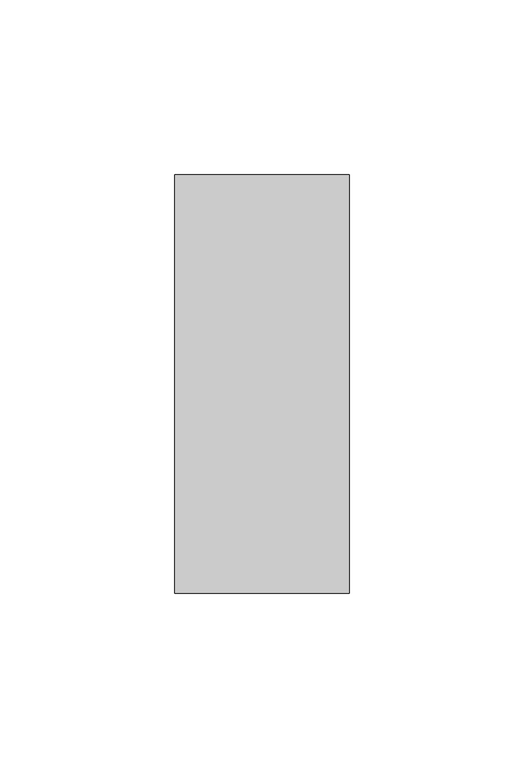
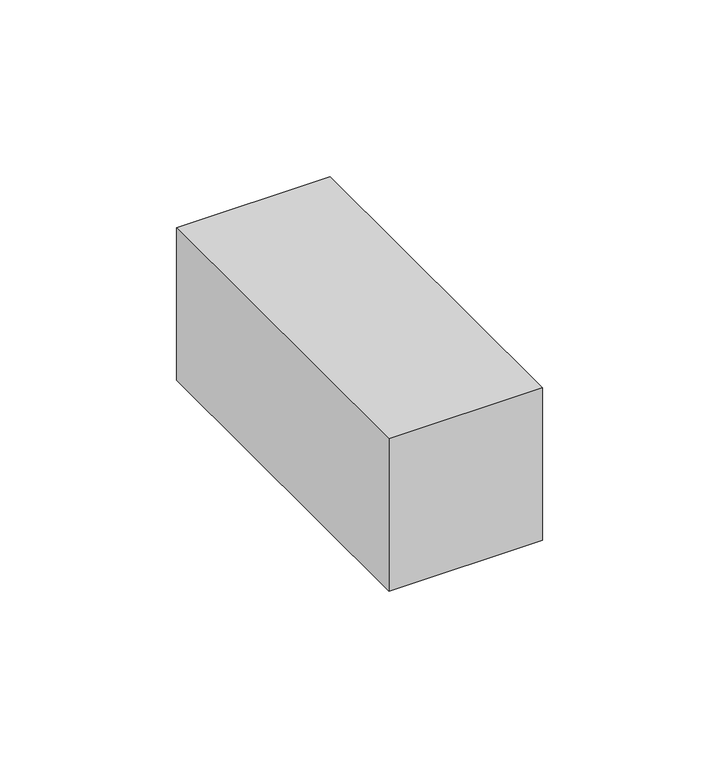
"""IFC4 building model written with IfcOpenShell, lengths in millimetres: member geometry, Прямоугольный импост : 50х120 мм."""

from ifc_helpers import new_model, si_unit, frame, origin, place, context, project, spatial, polyline, outline, extrude, source, transform, mapped, element, save


def member_5ccecf80(model_context):
    return source(origin(), model_context, "Body", "SweptSolid", [
        extrude(outline(polyline([(0.0, 60.0), (0.0, -60.0), (-50.0, -60.0), (-50.0, 60.0), (0.0, 60.0)])), frame((0.0, 0.0, -52.5731112), z_axis=(0.0, 0.0, 1.0), x_axis=(1.0, 0.0, 0.0)), (0.0, 0.0, 1.0), 52.5731112),
    ])


if __name__ == "__main__":
    model = new_model("IFC4")
    model_context = context("Model", 3, world=origin())
    ifc_project = project(units=[si_unit("LENGTHUNIT", "METRE", prefix="MILLI")], contexts=[model_context])
    site = spatial("IfcSite", under=ifc_project)
    building = spatial("IfcBuilding", under=site)
    placement = place(None, origin())
    member_shape = member_5ccecf80(model_context)
    element("IfcMember", 1, ObjectType="Прямоугольный импост : 50х120 мм", at=placement, inside=building, context=model_context, shape_type="MappedRepresentation", body=[
        mapped(member_shape, transform((0.0, 0.0, 0.0), x_axis=(1.0, 0.0, 0.0), y_axis=(0.0, 1.0, 0.0), z_axis=(0.0, 0.0, 1.0))),
    ])
    save(model, "model.ifc")
